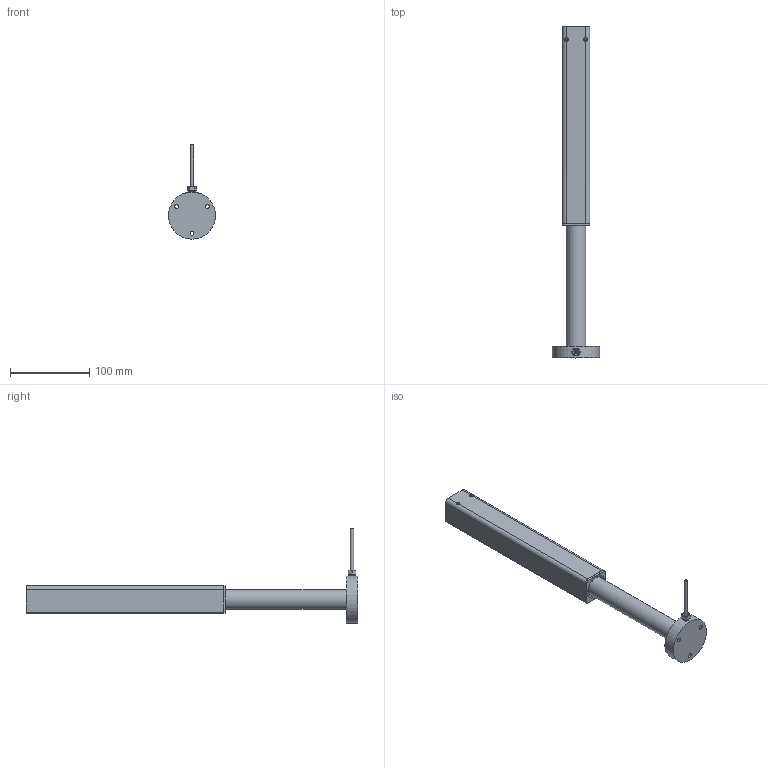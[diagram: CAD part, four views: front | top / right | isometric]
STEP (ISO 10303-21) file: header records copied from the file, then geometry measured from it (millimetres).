
FILE_DESCRIPTION(/* description */ ('Unknown'),/* implementation_level */ '2;1');
FILE_NAME(/* name */ '106.20041 Lineareinheit LD 1815_ausgefahren',/* time_stamp */ '2017-11-02T17:08:43+01:00',/* author */ ('Unknown'),/* organization */ ('Unknown'),/* preprocessor_version */ 'ST-DEVELOPER v16.7',/* originating_system */ 'DEX',/* authorisation */ $);
FILE_SCHEMA (('AUTOMOTIVE_DESIGN {1 0 10303 214 3 1 1}'));
Products named in the file (11): 106.20041; 119.00001; 142.00014; 142.00021; 125.00021; 115.00008; 125.00049; 122.00018; 125.00055; 123.00001; 113.00002_70mm
Assembly tree (11 placements, depth 2):
  106.20041
    119.00001
    142.00014  x2
    142.00021
    125.00021
    115.00008
    125.00049
    122.00018
    125.00055
    123.00001
    113.00002_70mm
Bounding box: 59.5 x 419.25 x 119 mm (x, y, z)
Volume: 245423.3 mm3; surface area: 144274.9 mm2
Topology: 10 solids, 10 shells, 815 faces, 1906 edges, 1139 vertices
Faces by surface type: cylinder 277, plane 224, bspline 224, cone 48, torus 29, sphere 13
Full cylindrical faces by diameter (mm): 2.2 x1, 3.5 x2, 4 x7, 4.1 x1, 4.134 x4, 4.2 x1, 4.917 x3, 6.647 x1, 6.917 x2, 8 x2, 14.4 x1, 17.3 x2, 17.9 x2, 19 x2, 20.8 x4, 21 x1, 25 x1, 30.63 x1, 59.5 x1
Entity records: 76044 total; most frequent: CARTESIAN_POINT 59381, ORIENTED_EDGE 3520, DIRECTION 2695, EDGE_CURVE 1760, VERTEX_POINT 1084, AXIS2_PLACEMENT_3D 1044, FACE_BOUND 938, EDGE_LOOP 936
